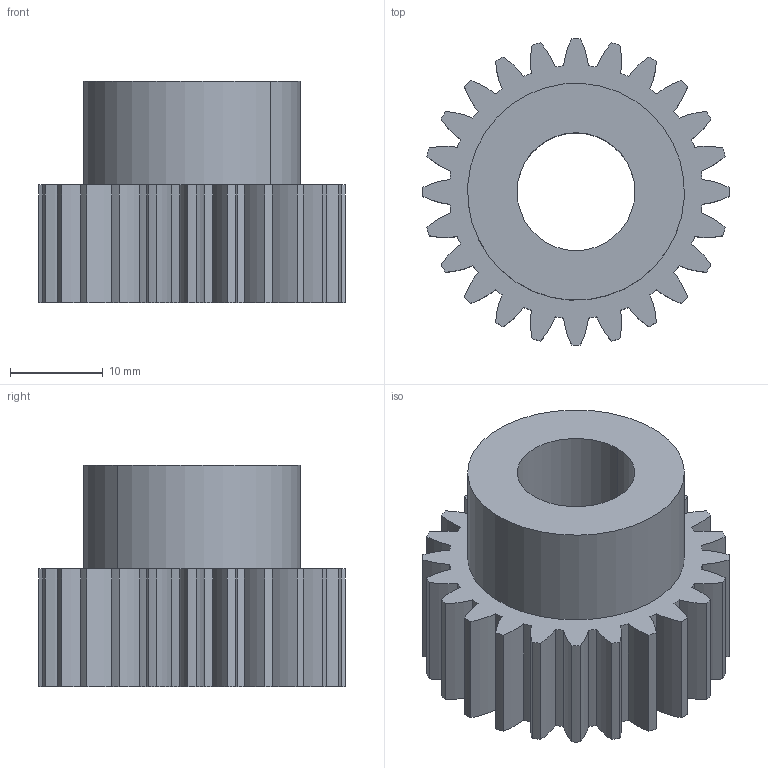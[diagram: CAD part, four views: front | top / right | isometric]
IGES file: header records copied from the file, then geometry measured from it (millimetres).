
Global section: file name: C:\Documents and Settings\Administrator\Desktop\Transfer Temp\gss-2024.igs; native system: AutoDesk Inventor R2.0 ; preprocessor: AutoDesk Inventor Iges Exporter R2.0; author: No Author specified; organization: No Organization specified; date: 20011229.165737; units: inch
Bounding box: 33.02 x 33.02 x 23.88 mm (x, y, z)
Surface area: 5392.7 mm2 (no closed solid volume)
Topology: 0 solids, 0 shells, 103 faces, 600 edges, 600 vertices
Faces by surface type: revolution 98, bspline 5
